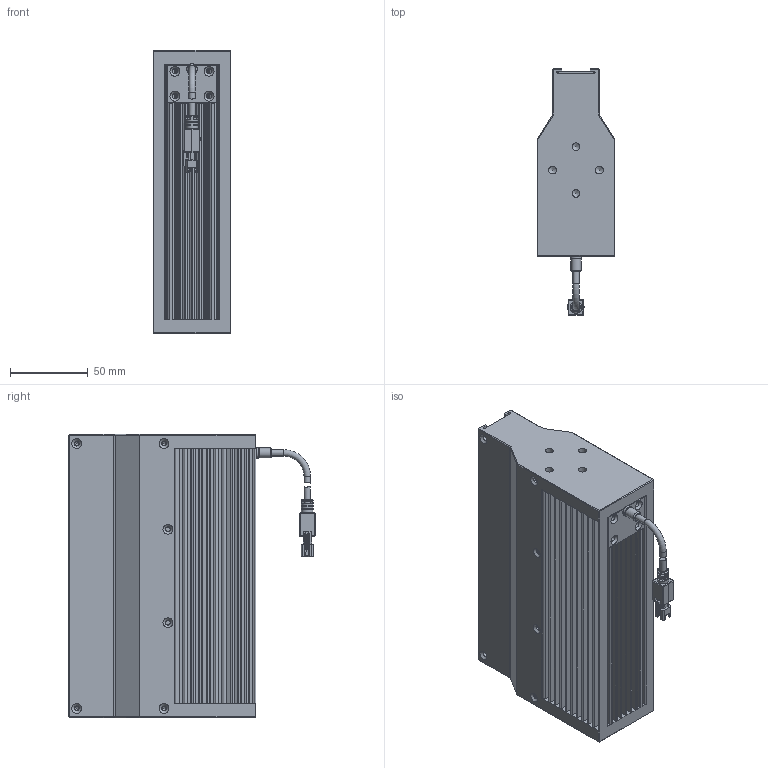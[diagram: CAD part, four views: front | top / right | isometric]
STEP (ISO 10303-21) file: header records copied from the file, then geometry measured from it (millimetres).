
FILE_DESCRIPTION (( 'STEP AP203' ), '1' );
FILE_NAME ('OPT-LSNL182-R-V1.0U尨砩芞.STEP', '2025-02-17T08:42:14', ( '' ), ( '' ), 'SwSTEP 2.0', 'SolidWorks 2016', '' );
FILE_SCHEMA (( 'CONFIG_CONTROL_DESIGN' ));
Length unit declared in the file: millimetre
Products named in the file (1): OPT-LSNL182-R-V1.0U尨砩芞
Bounding box: 50.02 x 158 x 182 mm (x, y, z)
Volume: 676704 mm3; surface area: 228829.4 mm2
Topology: 9 solids, 14 shells, 993 faces, 2729 edges, 1752 vertices
Faces by surface type: plane 596, cylinder 326, cone 42, bspline 21, torus 8
Full cylindrical faces by diameter (mm): 1.1 x2, 1.4 x2, 2.5 x8, 3 x8, 3.4 x16, 3.5 x1, 4.1 x4, 5 x8, 5.8 x1, 6.5 x1, 7 x1, 7.5 x1
Entity records: 33671 total; most frequent: CARTESIAN_POINT 9462, ORIENTED_EDGE 5136, DIRECTION 4717, EDGE_CURVE 2568, VERTEX_POINT 1698, LINE 1667, VECTOR 1667, AXIS2_PLACEMENT_3D 1525
